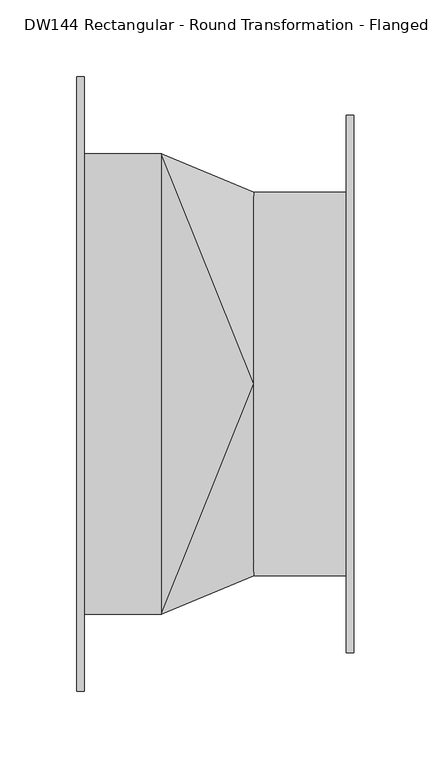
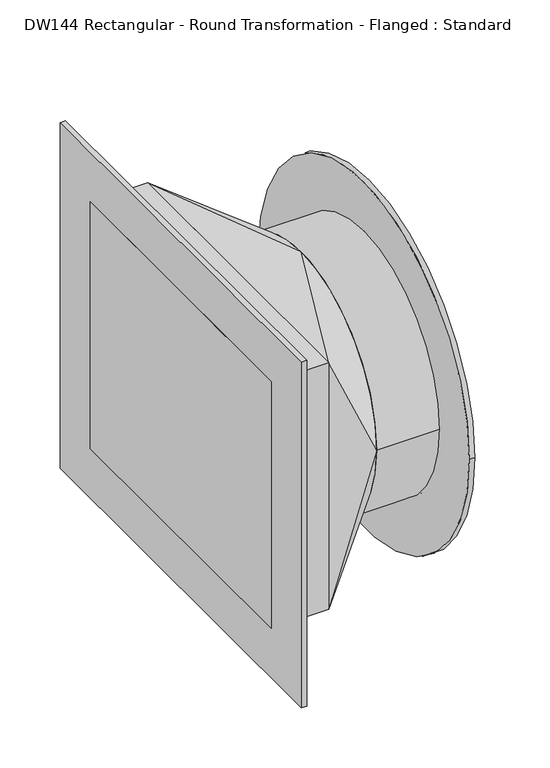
"""IFC4 building model written with IfcOpenShell, lengths in millimetres: duct fitting geometry, DW144 Rectangular - Round Transformation - Flanged : Standard."""

from ifc_helpers import new_model, si_unit, point, frame, origin, origin_2d, place, context, project, spatial, polyline, circle_curve, trimmed, segment, composite_curve, outline, extrude, source, transform, mapped, element, save
from ifc_brep_helpers import plane_surface, spline_surface, advanced_brep


def dw144_rectangular_round_transformation_flanged_standard_3f5d47c2(model_context):
    return source(origin(), model_context, "Body", "SolidModel", [
        extrude(outline(composite_curve([segment(trimmed(circle_curve(origin_2d(), 125.0), [point((-125.0, 0.0))], [point((125.0, 0.0))], False, "CARTESIAN"), True, "CONTINUOUS"), segment(trimmed(circle_curve(origin_2d(), 125.0), [point((125.0, 0.0))], [point((-125.0, 0.0))], False, "CARTESIAN"), True, "CONTINUOUS")], self_intersect=False)), frame((115.3553391, 0.0, 0.0), z_axis=(1.0, 0.0, 0.0), x_axis=(0.0, 1.0, 0.0)), (0.0, 0.0, 1.0), 65.0),
        extrude(outline(polyline([(55.0, 150.0), (55.0, -150.0), (0.0, -150.0), (0.0, 150.0), (55.0, 150.0)])), frame((0.0, 0.0, -125.0), z_axis=(0.0, 0.0, 1.0), x_axis=(1.0, 0.0, 0.0)), (0.0, 0.0, 1.0), 250.0),
        advanced_brep(
        [(115.3553391, 0.0, 125.0), (115.3553391, -125.0, 0.0), (115.3553391, 0.0, -125.0), (115.3553391, 125.0, 0.0), (55.0, -150.0, 125.0), (55.0, 150.0, 125.0), (55.0, 150.0, -125.0), (55.0, -150.0, -125.0)],
        [
            (0, 1, circle_curve(frame((115.3553391, 0.0, 0.0), z_axis=(1.0, 0.0, 0.0), x_axis=(0.0, 1.0, 0.0)), 125.0)),
            (1, 2, circle_curve(frame((115.3553391, 0.0, 0.0), z_axis=(1.0, 0.0, 0.0), x_axis=(0.0, 1.0, 0.0)), 125.0)),
            (2, 3, circle_curve(frame((115.3553391, 0.0, 0.0), z_axis=(1.0, 0.0, 0.0), x_axis=(0.0, 1.0, 0.0)), 125.0)),
            (3, 0, circle_curve(frame((115.3553391, 0.0, 0.0), z_axis=(1.0, 0.0, 0.0), x_axis=(0.0, 1.0, 0.0)), 125.0)),
            (4, 5),
            (5, 6),
            (6, 7),
            (7, 4),
            (0, 4),
            (4, 1),
            (7, 1),
            (7, 2),
            (6, 2),
            (6, 3),
            (5, 3),
            (5, 0),
        ],
        [
            plane_surface(frame((115.3553391, 0.0, 0.0), z_axis=(1.0, 0.0, 0.0), x_axis=(0.0, 0.0, -1.0))),
            plane_surface(frame((55.0, 0.0, 0.0), z_axis=(-1.0, 0.0, 0.0), x_axis=(0.0, 0.0, -1.0))),
            spline_surface(2, 1, [[(55.0, -150.0, 125.0), (115.3553391, 0.0, 125.0)], [(55.0, -150.0, 125.0), (115.3553391, -125.0, 125.0)], [(55.0, -150.0, 125.0), (115.3553391, -125.0, 0.0)]], [3, 3], [2, 2], [0.0, 1.0], [0.0, 1.0], weights=[[1.0, 1.0], [0.7071067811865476, 0.7071067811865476], [1.0, 1.0]]),
            plane_surface(frame((55.0, -150.0, 0.0), z_axis=(0.38268343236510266, -0.9238795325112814, 0.0), x_axis=(0.0, 0.0, -1.0))),
            spline_surface(2, 1, [[(55.0, -150.0, -125.0), (115.3553391, -125.0, 0.0)], [(55.0, -150.0, -125.0), (115.3553391, -125.0, -125.0)], [(55.0, -150.0, -125.0), (115.3553391, 0.0, -125.0)]], [3, 3], [2, 2], [0.0, 1.0], [0.0, 1.0], weights=[[1.0, 1.0], [0.7071067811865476, 0.7071067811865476], [1.0, 1.0]]),
            plane_surface(frame((55.0, 0.0, -125.0), z_axis=(0.0, 0.0, -1.0), x_axis=(0.0, 1.0, 0.0))),
            spline_surface(2, 1, [[(55.0, 150.0, -125.0), (115.3553391, 0.0, -125.0)], [(55.0, 150.0, -125.0), (115.3553391, 125.0, -125.0)], [(55.0, 150.0, -125.0), (115.3553391, 125.0, 0.0)]], [3, 3], [2, 2], [0.0, 1.0], [0.0, 1.0], weights=[[1.0, 1.0], [0.7071067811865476, 0.7071067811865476], [1.0, 1.0]]),
            plane_surface(frame((55.0, 150.0, 0.0), z_axis=(0.38268343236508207, 0.92387953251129, 0.0), x_axis=(0.0, 0.0, 1.0))),
            spline_surface(2, 1, [[(55.0, 150.0, 125.0), (115.3553391, 125.0, 0.0)], [(55.0, 150.0, 125.0), (115.3553391, 125.0, 125.0)], [(55.0, 150.0, 125.0), (115.3553391, 0.0, 125.0)]], [3, 3], [2, 2], [0.0, 1.0], [0.0, 1.0], weights=[[1.0, 1.0], [0.7071067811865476, 0.7071067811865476], [1.0, 1.0]]),
            plane_surface(frame((55.0, 0.0, 125.0), z_axis=(0.0, 0.0, 1.0), x_axis=(0.0, -1.0, 0.0))),
        ],
        [
            (0, [[1, 2, 3, 4]]),
            (1, [[5, 6, 7, 8]]),
            (2, [[-1, 9, 10]]),
            (3, [[-8, 11, -10]]),
            (4, [[-2, -11, 12]]),
            (5, [[-7, 13, -12]]),
            (6, [[-3, -13, 14]]),
            (7, [[-6, 15, -14]]),
            (8, [[-4, -15, 16]]),
            (9, [[-5, -9, -16]]),
        ],
    ),
        extrude(outline(composite_curve([segment(trimmed(circle_curve(origin_2d(), 175.0), [point((-175.0, 0.0))], [point((175.0, 0.0))], False, "CARTESIAN"), True, "CONTINUOUS"), segment(trimmed(circle_curve(origin_2d(), 175.0), [point((175.0, 0.0))], [point((-175.0, 0.0))], False, "CARTESIAN"), True, "CONTINUOUS")], self_intersect=False)), frame((175.3553391, 0.0, 0.0), z_axis=(1.0, 0.0, 0.0), x_axis=(0.0, 1.0, 0.0)), (0.0, 0.0, 1.0), 5.0),
        extrude(outline(polyline([(5.0, 200.0), (5.0, -200.0), (0.0, -200.0), (0.0, 200.0), (5.0, 200.0)])), frame((0.0, 0.0, -175.0), z_axis=(0.0, 0.0, 1.0), x_axis=(1.0, 0.0, 0.0)), (0.0, 0.0, 1.0), 350.0),
    ])


if __name__ == "__main__":
    model = new_model("IFC4")
    model_context = context("Model", 3, world=origin())
    ifc_project = project(units=[si_unit("LENGTHUNIT", "METRE", prefix="MILLI")], contexts=[model_context])
    site = spatial("IfcSite", under=ifc_project)
    building = spatial("IfcBuilding", under=site)
    placement = place(None, origin())
    dw144_rectangular_round_transformation_flanged_standard_shape = dw144_rectangular_round_transformation_flanged_standard_3f5d47c2(model_context)
    element("IfcDuctFitting", 1, ObjectType="DW144 Rectangular - Round Transformation - Flanged : Standard", at=placement, inside=building, context=model_context, shape_type="MappedRepresentation", body=[
        mapped(dw144_rectangular_round_transformation_flanged_standard_shape, transform((0.0, 0.0, 0.0), x_axis=(1.0, 0.0, 0.0), y_axis=(0.0, 1.0, 0.0), z_axis=(0.0, 0.0, 1.0))),
    ])
    save(model, "model.ifc")
